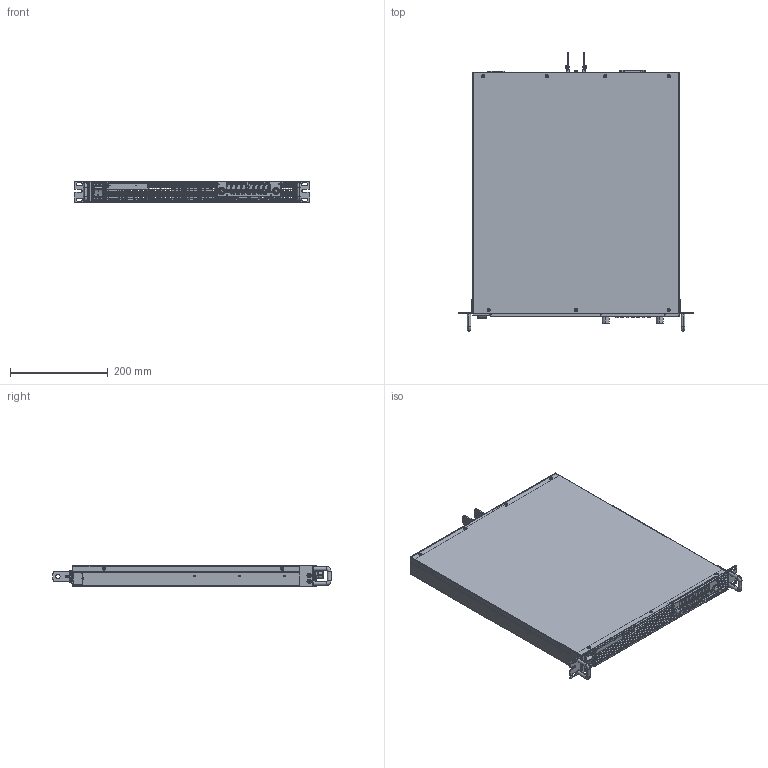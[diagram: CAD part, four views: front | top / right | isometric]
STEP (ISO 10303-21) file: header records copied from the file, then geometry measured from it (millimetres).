
FILE_DESCRIPTION((''),'2;1');
FILE_NAME('CU_RMX-4120_4121','2017-10-27T',('gvillanu'),(''),'CREO PARAMETRIC BY PTC INC, 2015380','CREO PARAMETRIC BY PTC INC, 2015380','');
FILE_SCHEMA(('CONFIG_CONTROL_DESIGN'));
Products named in the file (1): CU_RMX-4120_4121
Bounding box: 482.8 x 570 x 44 mm (x, y, z)
Volume: 18001.5 mm3; surface area: 1067616.2 mm2
Topology: 41 solids, 44 shells, 7802 faces, 22195 edges, 14325 vertices
Faces by surface type: plane 4817, cylinder 2110, extrusion 420, cone 288, bspline 84, torus 42, sphere 41
Entity records: 265319 total; most frequent: CARTESIAN_POINT 60477, ORIENTED_EDGE 44214, DIRECTION 40377, EDGE_CURVE 22107, VECTOR 16553, LINE 16133, VERTEX_POINT 14325, AXIS2_PLACEMENT_3D 11912
